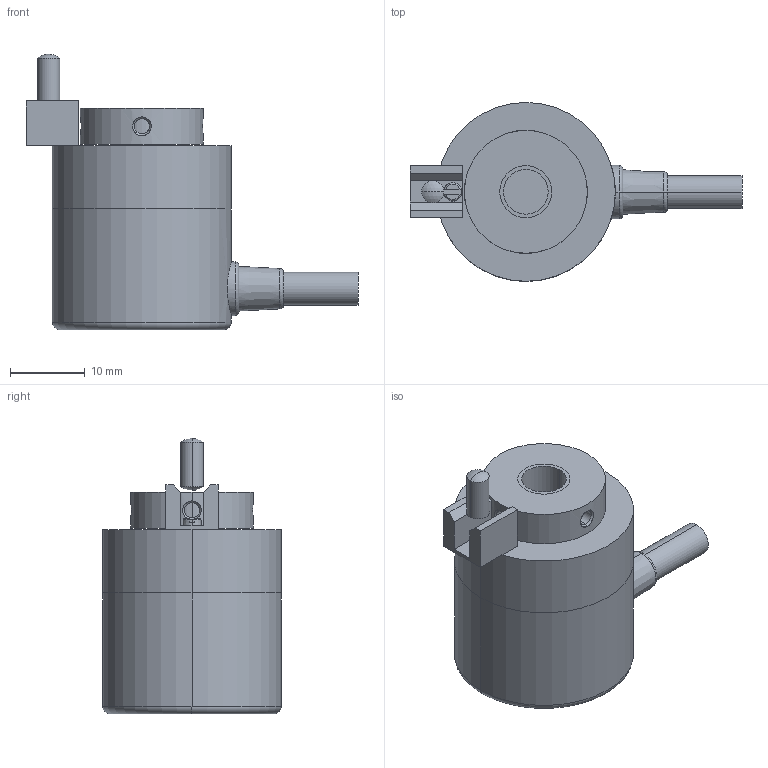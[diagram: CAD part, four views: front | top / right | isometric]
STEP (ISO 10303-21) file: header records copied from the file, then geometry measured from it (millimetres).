
FILE_DESCRIPTION (( 'STEP AP203' ), '1' );
FILE_NAME ('8.2440.1X6X.XXXX.STEP', '2013-11-12T07:36:43', ( 'HeirlerN' ), ( 'Microsoft' ), 'SwSTEP 2.0', 'SolidWorks 2013', '' );
FILE_SCHEMA (( 'CONFIG_CONTROL_DESIGN' ));
Length unit declared in the file: millimetre
Products named in the file (1): 8.2440.1X6X.XXXX
Bounding box: 44.55 x 24 x 36.96 mm (x, y, z)
Volume: 12566.6 mm3; surface area: 5314.3 mm2
Topology: 6 solids, 6 shells, 89 faces, 205 edges, 128 vertices
Faces by surface type: cylinder 36, plane 29, cone 12, torus 8, sphere 4
Entity records: 2954 total; most frequent: CARTESIAN_POINT 831, DIRECTION 443, ORIENTED_EDGE 410, EDGE_CURVE 205, AXIS2_PLACEMENT_3D 178, VERTEX_POINT 128, EDGE_LOOP 99, FACE_OUTER_BOUND 89
